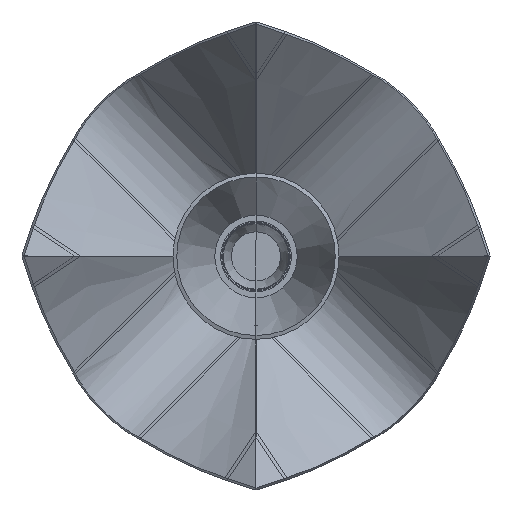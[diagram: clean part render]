
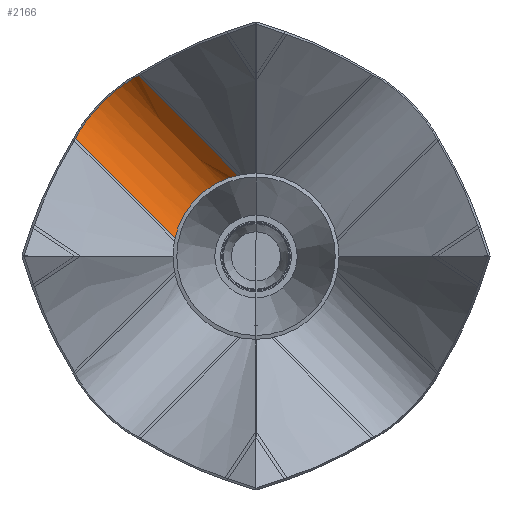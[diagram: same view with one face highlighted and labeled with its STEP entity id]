
A CAD part, top view. The second image highlights one B-rep face of the part: STEP entity #2166.
In plain terms, the highlighted free-form (B-spline) face has degree [3, 3] with [10, 4] control points.
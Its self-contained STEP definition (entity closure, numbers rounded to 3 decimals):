
#42=B_SPLINE_SURFACE_WITH_KNOTS('',3,3,((#3601,#3602,#3603,#3604),(#3605,
#3606,#3607,#3608),(#3609,#3610,#3611,#3612),(#3613,#3614,#3615,#3616),
(#3617,#3618,#3619,#3620),(#3621,#3622,#3623,#3624),(#3625,#3626,#3627,
#3628),(#3629,#3630,#3631,#3632),(#3633,#3634,#3635,#3636),(#3637,#3638,
#3639,#3640)),.UNSPECIFIED.,.F.,.F.,.F.,(4,1,1,1,1,1,1,4),(4,4),(0.,0.133,
0.267,0.4,0.533,0.667,0.8,1.),(0.,1.),
 .UNSPECIFIED.);
#105=B_SPLINE_CURVE_WITH_KNOTS('',3,(#3366,#3367,#3368,#3369,#3370,#3371,
#3372,#3373,#3374,#3375,#3376,#3377,#3378,#3379,#3380,#3381),
 .UNSPECIFIED.,.F.,.F.,(4,2,2,2,2,2,2,4),(0.,4.985,9.913,
19.611,25.18,34.652,42.469,50.394),
 .UNSPECIFIED.);
#117=B_SPLINE_CURVE_WITH_KNOTS('',3,(#3642,#3643,#3644,#3645,#3646,#3647,
#3648,#3649,#3650,#3651,#3652,#3653,#3654,#3655,#3656,#3657,#3658,#3659,
#3660,#3661,#3662,#3663),.UNSPECIFIED.,.F.,.F.,(4,3,3,3,3,3,3,4),(-49.213,
-42.651,-36.09,-29.528,-22.966,
-16.404,-9.843,0.),.UNSPECIFIED.);
#296=FACE_OUTER_BOUND('',#438,.T.);
#438=EDGE_LOOP('',(#1688,#1689,#1690,#1691));
#668=LINE('',#3600,#828);
#669=LINE('',#3664,#829);
#828=VECTOR('',#2674,304.8);
#829=VECTOR('',#2675,304.8);
#989=VERTEX_POINT('',#3357);
#990=VERTEX_POINT('',#3365);
#1004=VERTEX_POINT('',#3589);
#1005=VERTEX_POINT('',#3641);
#1227=EDGE_CURVE('',#990,#989,#105,.T.);
#1249=EDGE_CURVE('',#989,#1004,#668,.T.);
#1250=EDGE_CURVE('',#1005,#1004,#117,.T.);
#1251=EDGE_CURVE('',#990,#1005,#669,.T.);
#1688=ORIENTED_EDGE('',*,*,#1250,.F.);
#1689=ORIENTED_EDGE('',*,*,#1251,.F.);
#1690=ORIENTED_EDGE('',*,*,#1227,.T.);
#1691=ORIENTED_EDGE('',*,*,#1249,.T.);
#2166=ADVANCED_FACE('',(#296),#42,.T.);
#2674=DIRECTION('',(-0.659,0.661,0.359));
#2675=DIRECTION('',(-0.661,0.659,0.359));
#3357=CARTESIAN_POINT('',(-3.373,34.837,91.751));
#3365=CARTESIAN_POINT('',(-34.837,3.373,91.751));
#3366=CARTESIAN_POINT('Ctrl Pts',(-34.837,3.373,91.751));
#3367=CARTESIAN_POINT('Ctrl Pts',(-34.694,4.846,90.995));
#3368=CARTESIAN_POINT('Ctrl Pts',(-34.455,6.341,90.298));
#3369=CARTESIAN_POINT('Ctrl Pts',(-33.771,9.318,89.037));
#3370=CARTESIAN_POINT('Ctrl Pts',(-33.329,10.8,88.471));
#3371=CARTESIAN_POINT('Ctrl Pts',(-31.7,15.152,86.992));
#3372=CARTESIAN_POINT('Ctrl Pts',(-30.216,17.953,86.279));
#3373=CARTESIAN_POINT('Ctrl Pts',(-27.25,22.041,85.678));
#3374=CARTESIAN_POINT('Ctrl Pts',(-26.053,23.444,85.573));
#3375=CARTESIAN_POINT('Ctrl Pts',(-22.521,26.976,85.585));
#3376=CARTESIAN_POINT('Ctrl Pts',(-20.02,28.875,85.906));
#3377=CARTESIAN_POINT('Ctrl Pts',(-15.125,31.666,87.023));
#3378=CARTESIAN_POINT('Ctrl Pts',(-12.831,32.656,87.717));
#3379=CARTESIAN_POINT('Ctrl Pts',(-8.111,34.138,89.485));
#3380=CARTESIAN_POINT('Ctrl Pts',(-5.717,34.61,90.547));
#3381=CARTESIAN_POINT('Ctrl Pts',(-3.373,34.837,91.751));
#3589=CARTESIAN_POINT('',(-59.293,90.882,122.166));
#3600=CARTESIAN_POINT('',(-3.373,34.837,91.751));
#3601=CARTESIAN_POINT('Ctrl Pts',(-34.837,3.373,91.751));
#3602=CARTESIAN_POINT('Ctrl Pts',(-53.519,22.013,101.889));
#3603=CARTESIAN_POINT('Ctrl Pts',(-72.2,40.653,112.028));
#3604=CARTESIAN_POINT('Ctrl Pts',(-90.882,59.293,122.166));
#3605=CARTESIAN_POINT('Ctrl Pts',(-34.074,4.876,90.385));
#3606=CARTESIAN_POINT('Ctrl Pts',(-52.756,23.518,100.519));
#3607=CARTESIAN_POINT('Ctrl Pts',(-71.438,42.16,110.653));
#3608=CARTESIAN_POINT('Ctrl Pts',(-90.12,60.802,120.788));
#3609=CARTESIAN_POINT('Ctrl Pts',(-32.255,8.01,87.957));
#3610=CARTESIAN_POINT('Ctrl Pts',(-50.94,26.655,98.081));
#3611=CARTESIAN_POINT('Ctrl Pts',(-69.624,45.3,108.205));
#3612=CARTESIAN_POINT('Ctrl Pts',(-88.308,63.946,118.329));
#3613=CARTESIAN_POINT('Ctrl Pts',(-28.787,12.9,85.332));
#3614=CARTESIAN_POINT('Ctrl Pts',(-47.469,31.553,95.448));
#3615=CARTESIAN_POINT('Ctrl Pts',(-66.15,50.205,105.564));
#3616=CARTESIAN_POINT('Ctrl Pts',(-84.832,68.857,115.68));
#3617=CARTESIAN_POINT('Ctrl Pts',(-24.715,17.788,83.827));
#3618=CARTESIAN_POINT('Ctrl Pts',(-43.387,36.45,93.943));
#3619=CARTESIAN_POINT('Ctrl Pts',(-62.06,55.111,104.058));
#3620=CARTESIAN_POINT('Ctrl Pts',(-80.732,73.772,114.174));
#3621=CARTESIAN_POINT('Ctrl Pts',(-20.174,22.482,83.545));
#3622=CARTESIAN_POINT('Ctrl Pts',(-38.84,41.154,93.653));
#3623=CARTESIAN_POINT('Ctrl Pts',(-57.505,59.826,103.761));
#3624=CARTESIAN_POINT('Ctrl Pts',(-76.171,78.499,113.869));
#3625=CARTESIAN_POINT('Ctrl Pts',(-15.353,26.814,84.447));
#3626=CARTESIAN_POINT('Ctrl Pts',(-34.011,45.493,94.557));
#3627=CARTESIAN_POINT('Ctrl Pts',(-52.669,64.171,104.669));
#3628=CARTESIAN_POINT('Ctrl Pts',(-71.327,82.85,114.779));
#3629=CARTESIAN_POINT('Ctrl Pts',(-9.622,31.25,86.838));
#3630=CARTESIAN_POINT('Ctrl Pts',(-28.27,49.931,96.963));
#3631=CARTESIAN_POINT('Ctrl Pts',(-46.918,68.611,107.089));
#3632=CARTESIAN_POINT('Ctrl Pts',(-65.566,87.292,117.214));
#3633=CARTESIAN_POINT('Ctrl Pts',(-5.628,33.692,89.701));
#3634=CARTESIAN_POINT('Ctrl Pts',(-24.271,52.375,99.833));
#3635=CARTESIAN_POINT('Ctrl Pts',(-42.913,71.057,109.966));
#3636=CARTESIAN_POINT('Ctrl Pts',(-61.556,89.739,120.098));
#3637=CARTESIAN_POINT('Ctrl Pts',(-3.373,34.837,91.751));
#3638=CARTESIAN_POINT('Ctrl Pts',(-22.013,53.519,101.889));
#3639=CARTESIAN_POINT('Ctrl Pts',(-40.653,72.2,112.028));
#3640=CARTESIAN_POINT('Ctrl Pts',(-59.293,90.882,122.166));
#3641=CARTESIAN_POINT('',(-90.882,59.293,122.166));
#3642=CARTESIAN_POINT('Ctrl Pts',(-90.882,59.293,122.166));
#3643=CARTESIAN_POINT('Ctrl Pts',(-90.12,60.802,120.788));
#3644=CARTESIAN_POINT('Ctrl Pts',(-89.214,62.374,119.558));
#3645=CARTESIAN_POINT('Ctrl Pts',(-88.182,63.978,118.502));
#3646=CARTESIAN_POINT('Ctrl Pts',(-87.149,65.583,117.446));
#3647=CARTESIAN_POINT('Ctrl Pts',(-85.99,67.22,116.563));
#3648=CARTESIAN_POINT('Ctrl Pts',(-84.728,68.858,115.87));
#3649=CARTESIAN_POINT('Ctrl Pts',(-83.465,70.496,115.178));
#3650=CARTESIAN_POINT('Ctrl Pts',(-82.099,72.134,114.676));
#3651=CARTESIAN_POINT('Ctrl Pts',(-80.655,73.741,114.374));
#3652=CARTESIAN_POINT('Ctrl Pts',(-79.212,75.348,114.072));
#3653=CARTESIAN_POINT('Ctrl Pts',(-77.692,76.923,113.971));
#3654=CARTESIAN_POINT('Ctrl Pts',(-76.124,78.436,114.072));
#3655=CARTESIAN_POINT('Ctrl Pts',(-74.556,79.949,114.173));
#3656=CARTESIAN_POINT('Ctrl Pts',(-72.942,81.399,114.476));
#3657=CARTESIAN_POINT('Ctrl Pts',(-71.311,82.759,114.976));
#3658=CARTESIAN_POINT('Ctrl Pts',(-69.681,84.119,115.475));
#3659=CARTESIAN_POINT('Ctrl Pts',(-68.035,85.388,116.171));
#3660=CARTESIAN_POINT('Ctrl Pts',(-66.406,86.541,117.05));
#3661=CARTESIAN_POINT('Ctrl Pts',(-63.962,88.271,118.368));
#3662=CARTESIAN_POINT('Ctrl Pts',(-61.556,89.739,120.098));
#3663=CARTESIAN_POINT('Ctrl Pts',(-59.293,90.882,122.166));
#3664=CARTESIAN_POINT('',(-34.837,3.373,91.751));
